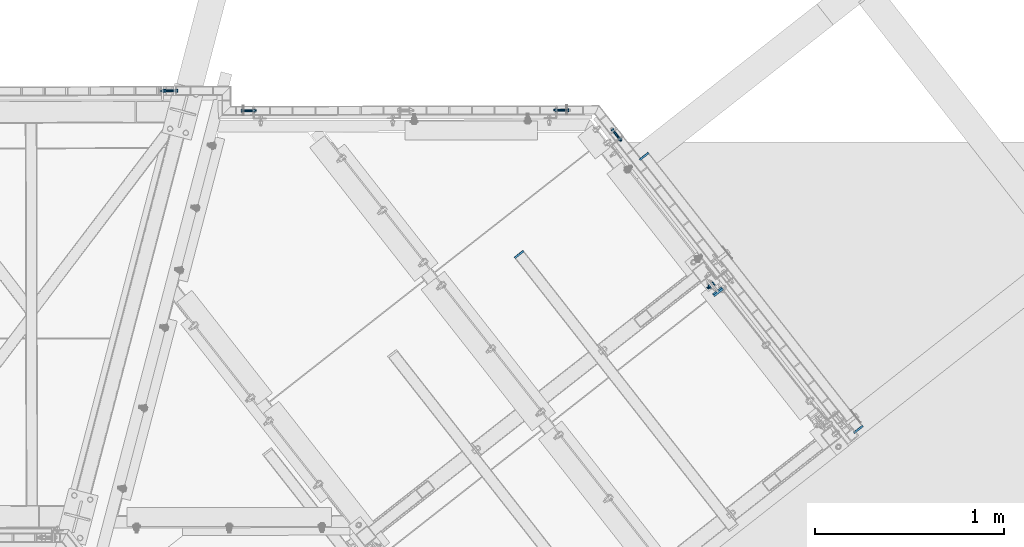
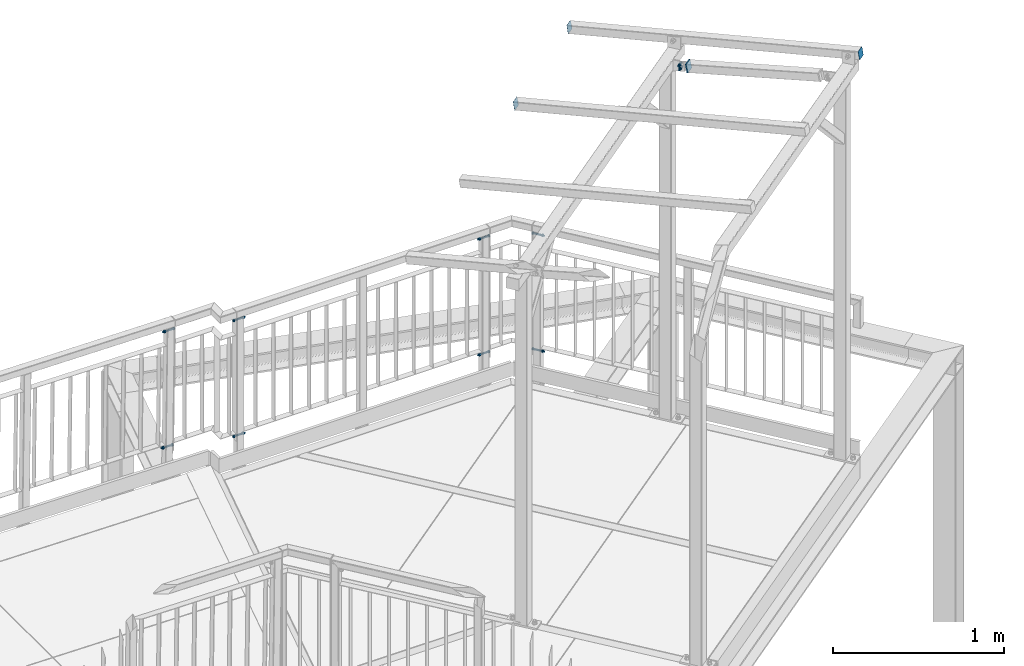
# One storey, part 169 of 169: 9 mechanical fasteners, 4 discrete accessories, 4 elements without a shape of their own.
"""IFC2X3 building model written with IfcOpenShell, lengths in millimetres."""

import ifcopenshell
import ifcopenshell.guid

model = None  # the IFC model being written
_history = None  # IfcOwnerHistory: only IFC2X3 demands one
_inside = {}  # id of a spatial element -> (the spatial element, [elements in it])
_under = {}  # id of a project, library or spatial element -> (it, [spatial elements below it])
_declared = {}  # id of a project -> (the project, [libraries it declares])
_typed = {}  # id of a type object -> (the type object, [elements of that type])
_made_of = {}  # id of a material, layer set ... -> (it, [elements and type objects made of it])


def new_model(schema):
    """Start an empty IFC model of exactly this schema.

    Asked for "IFC4X3", IfcOpenShell would pick the latest addendum, in which some entities
    have other attributes; the version numbers below select the first issue.
    IFC2X3 requires an IfcOwnerHistory on every rooted entity: one is made here for all.
    """
    global model, _history
    if schema == "IFC4X3":
        model = ifcopenshell.file(schema_version=(4, 3, 0, 0))
    else:
        model = ifcopenshell.file(schema=schema)
    _inside.clear()
    _under.clear()
    _declared.clear()
    _typed.clear()
    _made_of.clear()
    _history = None
    if model.schema == "IFC2X3":
        org = make("IfcOrganization", Name="unknown")
        user = make(
            "IfcPersonAndOrganization",
            ThePerson=make("IfcPerson", FamilyName="unknown"),
            TheOrganization=org,
        )
        app = make(
            "IfcApplication",
            ApplicationDeveloper=org,
            Version="unknown",
            ApplicationFullName="unknown",
            ApplicationIdentifier="unknown",
        )
        _history = make(
            "IfcOwnerHistory",
            OwningUser=user,
            OwningApplication=app,
            ChangeAction="ADDED",
            CreationDate=0,
        )
    return model


def make(cls, **values):
    """One entity of the class cls with the attributes given. An attribute that is None is left unset."""
    return model.create_entity(
        cls, **{name: value for name, value in values.items() if value is not None}
    )


def rooted(cls, **values):
    """An entity with a GlobalId (a new one), such as an element, a storey or a relation."""
    return make(cls, GlobalId=ifcopenshell.guid.new(), OwnerHistory=_history, **values)


def si_unit(unit_type, name, prefix=None):
    """IfcSIUnit, for example si_unit("LENGTHUNIT", "METRE", prefix="MILLI")."""
    return make("IfcSIUnit", UnitType=unit_type, Prefix=prefix, Name=name)


def assignment(units):
    """IfcUnitAssignment: the units of a project."""
    return None if units is None else make("IfcUnitAssignment", Units=units)


def point(xyz):
    """IfcCartesianPoint."""
    return None if xyz is None else make("IfcCartesianPoint", Coordinates=xyz)


def direction(xyz):
    """IfcDirection."""
    return None if xyz is None else make("IfcDirection", DirectionRatios=xyz)


def frame(location, z_axis=None, x_axis=None):
    """IfcAxis2Placement3D, a coordinate frame: its origin and axes. An axis left out is left unset."""
    return make(
        "IfcAxis2Placement3D",
        Location=point(location),
        Axis=direction(z_axis),
        RefDirection=direction(x_axis),
    )


def frame_2d(location, x_axis=None):
    """IfcAxis2Placement2D, a coordinate frame in the plane: its origin and x axis."""
    return make(
        "IfcAxis2Placement2D", Location=point(location), RefDirection=direction(x_axis)
    )


def origin_with_axes():
    """The frame at (0, 0, 0) with the z axis (0, 0, 1) and the x axis (1, 0, 0) written out."""
    return frame((0.0, 0.0, 0.0), z_axis=(0.0, 0.0, 1.0), x_axis=(1.0, 0.0, 0.0))


def origin_2d_with_axis():
    """The frame at (0, 0) in the plane with the x axis (1, 0) written out."""
    return frame_2d((0.0, 0.0), x_axis=(1.0, 0.0))


def place(relative_to, where):
    """IfcLocalPlacement: puts the frame where relative to a parent placement (None: the world)."""
    return make(
        "IfcLocalPlacement", PlacementRelTo=relative_to, RelativePlacement=where
    )


def context(
    kind, dimensions, precision=None, world=None, true_north=None, identifier=None
):
    """IfcGeometricRepresentationContext, for example the 3D "Model" context."""
    return make(
        "IfcGeometricRepresentationContext",
        ContextIdentifier=identifier,
        ContextType=kind,
        CoordinateSpaceDimension=dimensions,
        Precision=precision,
        WorldCoordinateSystem=world,
        TrueNorth=true_north,
    )


def subcontext(parent, identifier, kind, view, scale=None):
    """IfcGeometricRepresentationSubContext, for example "Body" below "Model"."""
    return make(
        "IfcGeometricRepresentationSubContext",
        ContextIdentifier=identifier,
        ContextType=kind,
        ParentContext=parent,
        TargetScale=scale,
        TargetView=view,
    )


def project(units=None, contexts=None):
    """IfcProject with its units and contexts."""
    return rooted(
        "IfcProject",
        Name="project",
        RepresentationContexts=contexts,
        UnitsInContext=assignment(units),
    )


def spatial(cls, under=None, at=None, **own):
    """A site, building, storey or space (cls), placed at a placement, below another one or the project."""
    s = rooted(cls, ObjectPlacement=at, **own)
    if under is not None:
        _under.setdefault(under.id(), (under, []))[1].append(s)
    return s


def polyline(points):
    """IfcPolyline through the points."""
    return make("IfcPolyline", Points=[point(p) for p in points])


def profile(cls, at=None, kind="AREA", **sizes):
    """A parametric profile (cls). Its sizes go by their IFC names, for example OverallWidth=200.0."""
    return make(cls, ProfileType=kind, Position=at, **sizes)


def circle(**sizes):
    """IfcCircleProfileDef."""
    return profile("IfcCircleProfileDef", **sizes)


def outline(outer, holes=None, kind="AREA"):
    """IfcArbitraryClosedProfileDef: a profile drawn as a closed curve; with holes, ...WithVoids."""
    if holes is None:
        return make("IfcArbitraryClosedProfileDef", ProfileType=kind, OuterCurve=outer)
    return make(
        "IfcArbitraryProfileDefWithVoids",
        ProfileType=kind,
        OuterCurve=outer,
        InnerCurves=holes,
    )


def extrude(swept, where, along, depth):
    """IfcExtrudedAreaSolid: the profile swept, set in the frame where, extruded along a direction by depth."""
    return make(
        "IfcExtrudedAreaSolid",
        SweptArea=swept,
        Position=where,
        ExtrudedDirection=direction(along),
        Depth=depth,
    )


def shape(context_of_items, identifier, shape_type, items):
    """IfcShapeRepresentation: the items that make up one representation, for example the "Body"."""
    return make(
        "IfcShapeRepresentation",
        ContextOfItems=context_of_items,
        RepresentationIdentifier=identifier,
        RepresentationType=shape_type,
        Items=items,
    )


def source(mapping_origin, context_of_items, identifier, shape_type, items):
    """IfcRepresentationMap: a shape defined once, which mapped items show again and again."""
    return make(
        "IfcRepresentationMap",
        MappingOrigin=mapping_origin,
        MappedRepresentation=shape(context_of_items, identifier, shape_type, items),
    )


def transform(
    local_origin,
    x_axis=None,
    y_axis=None,
    z_axis=None,
    scale=None,
    scale2=None,
    scale3=None,
    uniform=True,
):
    """IfcCartesianTransformationOperator3D, or its non-uniform kind. x_axis, y_axis, z_axis: its Axis1, 2, 3."""
    if uniform:
        return make(
            "IfcCartesianTransformationOperator3D",
            Axis1=direction(x_axis),
            Axis2=direction(y_axis),
            LocalOrigin=point(local_origin),
            Scale=scale,
            Axis3=direction(z_axis),
        )
    return make(
        "IfcCartesianTransformationOperator3DnonUniform",
        Axis1=direction(x_axis),
        Axis2=direction(y_axis),
        LocalOrigin=point(local_origin),
        Scale=scale,
        Axis3=direction(z_axis),
        Scale2=scale2,
        Scale3=scale3,
    )


def mapped(mapping_source, mapping_target):
    """IfcMappedItem: shows the shape of a source again, moved by a transform."""
    return make(
        "IfcMappedItem", MappingSource=mapping_source, MappingTarget=mapping_target
    )


def material(Name=None, Category=None):
    """IfcMaterial."""
    return make("IfcMaterial", Name=Name, Category=Category)


def made_of(thing, what):
    """Note that an element or type object is made of a material, layer set ...; save() writes the relation."""
    if what is not None:
        _made_of.setdefault(what.id(), (what, []))[1].append(thing)
    return thing


def type_object(cls, material=None, **own):
    """A type object (cls), such as IfcWallType, which elements share."""
    return made_of(rooted(cls, **own), material)


def element(
    cls,
    number,
    at=None,
    inside=None,
    cuts=None,
    type_object=None,
    material=None,
    context=None,
    identifier="Body",
    shape_type=None,
    held_by="IfcProductDefinitionShape",
    body=None,
    shapes=None,
    **own,
):
    """One element of the class cls, such as IfcWall. Its Tag is "e" and its number.

    at: its placement. inside: the storey or other place that contains it. cuts: it is an
    opening in that element (IfcRelVoidsElement). A single representation is given by context,
    identifier, shape_type and body (its items); several are given by shapes. held_by: the class
    of the entity that holds the representations. save() writes the other relations.
    """
    e = rooted(cls, Tag="e%d" % number, ObjectPlacement=at, **own)
    if body is not None:
        shapes = [shape(context, identifier, shape_type, body)]
    if shapes is not None:
        e.Representation = make(held_by, Representations=shapes)
    if inside is not None:
        _inside.setdefault(inside.id(), (inside, []))[1].append(e)
    if cuts is not None:
        rooted(
            "IfcRelVoidsElement", RelatingBuildingElement=cuts, RelatedOpeningElement=e
        )
    if type_object is not None:
        _typed.setdefault(type_object.id(), (type_object, []))[1].append(e)
    return made_of(e, material)


def aggregate(whole, parts):
    """IfcRelAggregates: a whole, such as a stair, and the parts it consists of."""
    return rooted("IfcRelAggregates", RelatingObject=whole, RelatedObjects=parts)


def save(model, path):
    """Write the relations noted so far, then the file.

    IfcRelAggregates (storeys below a building ...), IfcRelContainedInSpatialStructure (elements
    in a storey), IfcRelDefinesByType, IfcRelAssociatesMaterial and IfcRelDeclares: one each for
    every whole, place, type object, material and project.
    """
    for whole, parts in _under.values():
        aggregate(whole, parts)
    for where, things in _inside.values():
        rooted(
            "IfcRelContainedInSpatialStructure",
            RelatedElements=things,
            RelatingStructure=where,
        )
    for kind, things in _typed.values():
        rooted("IfcRelDefinesByType", RelatedObjects=things, RelatingType=kind)
    for what, things in _made_of.values():
        rooted("IfcRelAssociatesMaterial", RelatedObjects=things, RelatingMaterial=what)
    for by, libraries in _declared.values():
        rooted("IfcRelDeclares", RelatingContext=by, RelatedDefinitions=libraries)
    model.write(path)


model = new_model("IFC2X3")

# Units and contexts
model_context = context("Model", 3, precision=1e-05, world=origin_with_axes())
body_context = subcontext(model_context, "Body", "Model", "MODEL_VIEW")
ifc_project = project(units=[si_unit("LENGTHUNIT", "METRE", prefix="MILLI"), si_unit("AREAUNIT", "SQUARE_METRE"), si_unit("VOLUMEUNIT", "CUBIC_METRE"), si_unit("MASSUNIT", "GRAM", prefix="KILO"), si_unit("TIMEUNIT", "SECOND"), si_unit("PLANEANGLEUNIT", "RADIAN"), si_unit("SOLIDANGLEUNIT", "STERADIAN"), si_unit("THERMODYNAMICTEMPERATUREUNIT", "DEGREE_CELSIUS"), si_unit("LUMINOUSINTENSITYUNIT", "LUMEN")], contexts=[model_context])

# Site, building, storey
site_placement = place(None, origin_with_axes())
site = spatial("IfcSite", under=ifc_project, at=site_placement, Name="Undefined", CompositionType="ELEMENT")
building_placement = place(site_placement, origin_with_axes())
building = spatial("IfcBuilding", under=site, at=building_placement, Name="Undefined", CompositionType="ELEMENT")
storey_placement = place(building_placement, origin_with_axes())
storey = spatial("IfcBuildingStorey", under=building, at=storey_placement, Name="Undefined", CompositionType="ELEMENT", Elevation=0.0)

# Assembly, discrete accessory
assembly_1_placement = place(storey_placement, origin_with_axes())
assembly_1 = element("IfcElementAssembly", 1, at=assembly_1_placement, inside=storey, Name="Steel Assembly", AssemblyPlace="NOTDEFINED", PredefinedType="RIGID_FRAME")
ifc_material_1 = material(Name="STEEL/S235")
discrete_accessory_type_1 = type_object("IfcDiscreteAccessoryType", Name="BLACHA")
discrete_accessory_1_placement = place(assembly_1_placement, frame((21799.9364944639, 1309.71528431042, 16335.246931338), z_axis=(0.607017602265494, -0.773740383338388, 0.181260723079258), x_axis=(0.786773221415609, 0.617242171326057, 0.0)))
discrete_accessory_1 = element("IfcDiscreteAccessory", 2, at=discrete_accessory_1_placement, type_object=discrete_accessory_type_1, material=ifc_material_1, Name="BLACHA", ObjectType="BL8*60", context=body_context, shape_type="SweptSolid", body=[
    extrude(outline(polyline([(-1.63709046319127e-10, 30.0000000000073), (60.0000000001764, 30.0000000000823), (60.0000000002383, -29.9999999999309), (1.63709046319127e-10, -30.0000000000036), (-1.63709046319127e-10, 30.0000000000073)])), frame((1.81942236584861e-12, -3.63797880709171e-12, -4.00000000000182), z_axis=(0.0, 0.0, 1.0), x_axis=(1.0, 0.0, 0.0)), (0.0, 0.0, 1.0), 8.0),
])

assembly_2_placement = place(storey_placement, origin_with_axes())
assembly_2 = element("IfcElementAssembly", 3, at=assembly_2_placement, inside=storey, Name="Steel Assembly", AssemblyPlace="NOTDEFINED", PredefinedType="RIGID_FRAME")
discrete_accessory_2_placement = place(assembly_2_placement, frame((21412.6178133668, 2022.12923452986, 16285.9942798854), z_axis=(0.609591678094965, -0.777021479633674, 0.156957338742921), x_axis=(0.786773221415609, 0.617242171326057, 0.0)))
discrete_accessory_2 = element("IfcDiscreteAccessory", 4, at=discrete_accessory_2_placement, type_object=discrete_accessory_type_1, material=ifc_material_1, Name="BLACHA", ObjectType="BL1*60", context=body_context, shape_type="SweptSolid", body=[
    extrude(outline(polyline([(0.0, 0.0), (60.0000000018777, -8.8220986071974e-11), (59.9999961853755, 60.0000000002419), (5.3567816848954e-11, 59.9999999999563), (0.0, 0.0)])), frame((4.96240207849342e-17, -1.81897552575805e-12, -0.5), z_axis=(0.0, 0.0, 1.0), x_axis=(1.0, 0.0, 0.0)), (0.0, 0.0, 1.0), 1.0),
])

assembly_3_placement = place(storey_placement, origin_with_axes())
assembly_3 = element("IfcElementAssembly", 5, at=assembly_3_placement, inside=storey, Name="Steel Assembly", AssemblyPlace="NOTDEFINED", PredefinedType="RIGID_FRAME")
discrete_accessory_3_placement = place(assembly_3_placement, frame((20751.7283084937, 1503.64581168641, 16285.9941935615), z_axis=(0.609591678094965, -0.777021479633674, 0.156957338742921), x_axis=(0.786773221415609, 0.617242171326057, 0.0)))
discrete_accessory_3 = element("IfcDiscreteAccessory", 6, at=discrete_accessory_3_placement, type_object=discrete_accessory_type_1, material=ifc_material_1, Name="BLACHA", ObjectType="BL1*60", context=body_context, shape_type="SweptSolid", body=[
    extrude(outline(polyline([(0.0, 0.0), (60.0000000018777, -8.8220986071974e-11), (59.9999961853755, 60.0000000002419), (5.3567816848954e-11, 59.9999999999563), (0.0, 0.0)])), frame((4.96240207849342e-17, -1.81897552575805e-12, -0.5), z_axis=(0.0, 0.0, 1.0), x_axis=(1.0, 0.0, 0.0)), (0.0, 0.0, 1.0), 1.0),
])
aggregate(assembly_3, [discrete_accessory_3])

# Discrete accessory
discrete_accessory_4_placement = place(assembly_2_placement, frame((22586.3355536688, 623.246045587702, 16636.8008422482), z_axis=(0.609591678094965, -0.777021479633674, 0.156957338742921), x_axis=(-0.7867732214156, -0.61724217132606, -1.0406294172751e-07)))
discrete_accessory_4 = element("IfcDiscreteAccessory", 7, at=discrete_accessory_4_placement, type_object=discrete_accessory_type_1, material=ifc_material_1, Name="BLACHA", ObjectType="BL1*60", context=body_context, shape_type="SweptSolid", body=[
    extrude(outline(polyline([(0.0, 0.0), (60.0000000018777, -8.8220986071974e-11), (59.9999961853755, 60.0000000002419), (5.3567816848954e-11, 59.9999999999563), (0.0, 0.0)])), frame((4.96240207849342e-17, -1.81897552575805e-12, -0.5), z_axis=(0.0, 0.0, 1.0), x_axis=(1.0, 0.0, 0.0)), (0.0, 0.0, 1.0), 1.0),
])

aggregate(assembly_2, [discrete_accessory_2, discrete_accessory_4])

# Assembly, mechanical fasteners
assembly_4_placement = place(storey_placement, origin_with_axes())
assembly_4 = element("IfcElementAssembly", 8, at=assembly_4_placement, inside=storey, Name="Steel Assembly", AssemblyPlace="NOTDEFINED", PredefinedType="RIGID_FRAME")
ifc_material_2 = material(Name="Undefined")
discrete_accessory_type_2 = type_object("IfcDiscreteAccessoryType", Name="Bolt assembly")
shared_shape_1 = source(origin_with_axes(), body_context, "Body", "SweptSolid", [
    extrude(circle(Radius=6.5, at=origin_2d_with_axis()), frame((0.0, 4.89999999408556, 0.0), z_axis=(0.0, 1.0, 0.0), x_axis=(1.0, 0.0, 0.0)), (0.0, 0.0, 1.0), 50.1),
    extrude(circle(Radius=6.5, at=origin_2d_with_axis()), frame((0.0, 0.100000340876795, 0.0), z_axis=(0.0, 1.0, 0.0), x_axis=(1.0, 0.0, 0.0)), (0.0, 0.0, 1.0), 5.0),
    extrude(outline(polyline([(8.66025403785, 0.0), (4.330127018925, 7.50000000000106), (-4.330127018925, 7.50000000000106), (-8.66025403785, 0.0), (-4.330127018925, -7.50000000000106), (4.330127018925, -7.50000000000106), (8.66025403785, 0.0)])), frame((0.0, -8.39999975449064, 0.0), z_axis=(0.0, 1.0, 0.0), x_axis=(1.0, 0.0, 0.0)), (0.0, 0.0, 1.0), 6.4),
    extrude(circle(Radius=5.0, at=origin_2d_with_axis()), frame((0.0, -1.9999996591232, 0.0), z_axis=(0.0, 1.0, 0.0), x_axis=(1.0, 0.0, 0.0)), (0.0, 0.0, 1.0), 75.0),
    extrude(circle(Radius=10.0, at=origin_2d_with_axis()), frame((0.0, -1.9999996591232, 0.0), z_axis=(0.0, 1.0, 0.0), x_axis=(1.0, 0.0, 0.0)), (0.0, 0.0, 1.0), 2.0),
    extrude(circle(Radius=10.0, at=origin_2d_with_axis()), frame((0.0, 54.9999999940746, 0.0), z_axis=(0.0, 1.0, 0.0), x_axis=(1.0, 0.0, 0.0)), (0.0, 0.0, 1.0), 2.0),
    extrude(outline(polyline([(9.81495457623, 0.0), (4.907477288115, 8.5000000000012), (-4.907477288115, 8.5000000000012), (-9.81495457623, 0.0), (-4.907477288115, -8.5000000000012), (4.907477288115, -8.5000000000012), (9.81495457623, 0.0)])), frame((0.0, 56.999999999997, 0.0), z_axis=(0.0, 1.0, 0.0), x_axis=(1.0, 0.0, 0.0)), (0.0, 0.0, 1.0), 8.0),
])
mechanical_fastener_1_placement = place(assembly_4_placement, frame((19311.7468070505, 2285.53108759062, 14820.0826306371), z_axis=(-2.54700353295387e-10, 0.0, -1.0), x_axis=(-0.00162384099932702, 0.999998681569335, -1.10000109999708e-08)))
mechanical_fastener_1 = element("IfcMechanicalFastener", 9, at=mechanical_fastener_1_placement, type_object=discrete_accessory_type_2, material=ifc_material_2, Name="Bolt assembly", NominalDiameter=10.0, NominalLength=75.0, context=body_context, shape_type="MappedRepresentation", body=[
    mapped(shared_shape_1, transform((0.0, 0.0, 0.0))),
])
mechanical_fastener_2_placement = place(assembly_4_placement, frame((21268.6531593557, 2181.33324727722, 14820.4175226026), z_axis=(-2.54700353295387e-10, 0.0, -1.0), x_axis=(0.786773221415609, 0.617242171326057, 0.0)))
mechanical_fastener_2 = element("IfcMechanicalFastener", 10, at=mechanical_fastener_2_placement, type_object=discrete_accessory_type_2, material=ifc_material_2, Name="Bolt assembly", NominalDiameter=10.0, NominalLength=75.0, context=body_context, shape_type="MappedRepresentation", body=[
    mapped(shared_shape_1, transform((0.0, 0.0, 0.0))),
])
shared_shape_2 = source(origin_with_axes(), body_context, "Body", "SweptSolid", [
    extrude(circle(Radius=6.5, at=origin_2d_with_axis()), frame((0.0, 4.93999548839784, 0.0), z_axis=(0.0, 1.0, 0.0), x_axis=(1.0, 0.0, 0.0)), (0.0, 0.0, 1.0), 50.06),
    extrude(circle(Radius=6.5, at=origin_2d_with_axis()), frame((0.0, 0.139995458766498, 0.0), z_axis=(0.0, 1.0, 0.0), x_axis=(1.0, 0.0, 0.0)), (0.0, 0.0, 1.0), 5.0),
    extrude(outline(polyline([(8.66025403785, 0.0), (4.330127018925, 7.50000000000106), (-4.330127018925, 7.50000000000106), (-8.66025403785, 0.0), (-4.330127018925, -7.50000000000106), (4.330127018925, -7.50000000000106), (8.66025403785, 0.0)])), frame((0.0, -8.36000463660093, 0.0), z_axis=(0.0, 1.0, 0.0), x_axis=(1.0, 0.0, 0.0)), (0.0, 0.0, 1.0), 6.4),
    extrude(circle(Radius=5.0, at=origin_2d_with_axis()), frame((0.0, -1.9600045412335, 0.0), z_axis=(0.0, 1.0, 0.0), x_axis=(1.0, 0.0, 0.0)), (0.0, 0.0, 1.0), 75.0),
    extrude(circle(Radius=10.0, at=origin_2d_with_axis()), frame((0.0, -1.9600045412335, 0.0), z_axis=(0.0, 1.0, 0.0), x_axis=(1.0, 0.0, 0.0)), (0.0, 0.0, 1.0), 2.0),
    extrude(circle(Radius=10.0, at=origin_2d_with_axis()), frame((0.0, 54.9999999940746, 0.0), z_axis=(0.0, 1.0, 0.0), x_axis=(1.0, 0.0, 0.0)), (0.0, 0.0, 1.0), 2.0),
    extrude(outline(polyline([(9.81495457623, 0.0), (4.907477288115, 8.5000000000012), (-4.907477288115, 8.5000000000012), (-9.81495457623, 0.0), (-4.907477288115, -8.5000000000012), (4.907477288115, -8.5000000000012), (9.81495457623, 0.0)])), frame((0.0, 56.999999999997, 0.0), z_axis=(0.0, 1.0, 0.0), x_axis=(1.0, 0.0, 0.0)), (0.0, 0.0, 1.0), 8.0),
])
mechanical_fastener_3_placement = place(assembly_4_placement, frame((18961.2134340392, 2390.3781455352, 14820.0861526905), z_axis=(0.012713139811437, 2.3750999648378e-05, 0.999919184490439), x_axis=(-0.0018648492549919, 0.999998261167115, -4.2996762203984e-08)))
mechanical_fastener_3 = element("IfcMechanicalFastener", 11, at=mechanical_fastener_3_placement, type_object=discrete_accessory_type_2, material=ifc_material_2, Name="Bolt assembly", NominalDiameter=10.0, NominalLength=75.0, context=body_context, shape_type="MappedRepresentation", body=[
    mapped(shared_shape_2, transform((0.0, 0.0, 0.0))),
])
shared_shape_3 = source(origin_with_axes(), body_context, "Body", "SweptSolid", [
    extrude(circle(Radius=6.5, at=origin_2d_with_axis()), frame((0.0, 4.93813823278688, 0.0), z_axis=(0.0, 1.0, 0.0), x_axis=(1.0, 0.0, 0.0)), (0.0, 0.0, 1.0), 50.06),
    extrude(circle(Radius=6.5, at=origin_2d_with_axis()), frame((0.0, 0.138138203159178, 0.0), z_axis=(0.0, 1.0, 0.0), x_axis=(1.0, 0.0, 0.0)), (0.0, 0.0, 1.0), 5.0),
    extrude(outline(polyline([(8.66025403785, 0.0), (4.330127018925, 7.50000000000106), (-4.330127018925, 7.50000000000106), (-8.66025403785, 0.0), (-4.330127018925, -7.50000000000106), (4.330127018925, -7.50000000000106), (8.66025403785, 0.0)])), frame((0.0, -8.36186189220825, 0.0), z_axis=(0.0, 1.0, 0.0), x_axis=(1.0, 0.0, 0.0)), (0.0, 0.0, 1.0), 6.4),
    extrude(circle(Radius=5.0, at=origin_2d_with_axis()), frame((0.0, -1.96186179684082, 0.0), z_axis=(0.0, 1.0, 0.0), x_axis=(1.0, 0.0, 0.0)), (0.0, 0.0, 1.0), 75.0),
    extrude(circle(Radius=10.0, at=origin_2d_with_axis()), frame((0.0, -1.96186179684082, 0.0), z_axis=(0.0, 1.0, 0.0), x_axis=(1.0, 0.0, 0.0)), (0.0, 0.0, 1.0), 2.0),
    extrude(circle(Radius=10.0, at=origin_2d_with_axis()), frame((0.0, 54.9999999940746, 0.0), z_axis=(0.0, 1.0, 0.0), x_axis=(1.0, 0.0, 0.0)), (0.0, 0.0, 1.0), 2.0),
    extrude(outline(polyline([(9.81495457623, 0.0), (4.907477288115, 8.5000000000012), (-4.907477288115, 8.5000000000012), (-9.81495457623, 0.0), (-4.907477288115, -8.5000000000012), (4.907477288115, -8.5000000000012), (9.81495457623, 0.0)])), frame((0.0, 56.999999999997, 0.0), z_axis=(0.0, 1.0, 0.0), x_axis=(1.0, 0.0, 0.0)), (0.0, 0.0, 1.0), 8.0),
])
mechanical_fastener_4_placement = place(assembly_4_placement, frame((18950.7123816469, 2390.35852892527, 13994.2990942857), z_axis=(0.012713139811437, 2.3750999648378e-05, 0.999919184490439), x_axis=(-0.0018648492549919, 0.999998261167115, -4.2996762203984e-08)))
mechanical_fastener_4 = element("IfcMechanicalFastener", 12, at=mechanical_fastener_4_placement, type_object=discrete_accessory_type_2, material=ifc_material_2, Name="Bolt assembly", NominalDiameter=10.0, NominalLength=75.0, context=body_context, shape_type="MappedRepresentation", body=[
    mapped(shared_shape_3, transform((0.0, 0.0, 0.0))),
])
shared_shape_4 = source(origin_with_axes(), body_context, "Body", "SweptSolid", [
    extrude(circle(Radius=6.5, at=origin_2d_with_axis()), frame((0.0, 4.89994591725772, 0.0), z_axis=(0.0, 1.0, 0.0), x_axis=(1.0, 0.0, 0.0)), (0.0, 0.0, 1.0), 50.1),
    extrude(circle(Radius=6.5, at=origin_2d_with_axis()), frame((0.0, 0.100000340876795, 0.0), z_axis=(0.0, 1.0, 0.0), x_axis=(1.0, 0.0, 0.0)), (0.0, 0.0, 1.0), 5.0),
    extrude(outline(polyline([(8.66025403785, 0.0), (4.330127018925, 7.50000000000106), (-4.330127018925, 7.50000000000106), (-8.66025403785, 0.0), (-4.330127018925, -7.50000000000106), (4.330127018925, -7.50000000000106), (8.66025403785, 0.0)])), frame((0.0, -8.39999975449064, 0.0), z_axis=(0.0, 1.0, 0.0), x_axis=(1.0, 0.0, 0.0)), (0.0, 0.0, 1.0), 6.4),
    extrude(circle(Radius=5.0, at=origin_2d_with_axis()), frame((0.0, -1.9999996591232, 0.0), z_axis=(0.0, 1.0, 0.0), x_axis=(1.0, 0.0, 0.0)), (0.0, 0.0, 1.0), 75.0),
    extrude(circle(Radius=10.0, at=origin_2d_with_axis()), frame((0.0, -1.9999996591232, 0.0), z_axis=(0.0, 1.0, 0.0), x_axis=(1.0, 0.0, 0.0)), (0.0, 0.0, 1.0), 2.0),
    extrude(circle(Radius=10.0, at=origin_2d_with_axis()), frame((0.0, 54.9999999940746, 0.0), z_axis=(0.0, 1.0, 0.0), x_axis=(1.0, 0.0, 0.0)), (0.0, 0.0, 1.0), 2.0),
    extrude(outline(polyline([(9.81495457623, 0.0), (4.907477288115, 8.5000000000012), (-4.907477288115, 8.5000000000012), (-9.81495457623, 0.0), (-4.907477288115, -8.5000000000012), (4.907477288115, -8.5000000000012), (9.81495457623, 0.0)])), frame((0.0, 56.999999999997, 0.0), z_axis=(0.0, 1.0, 0.0), x_axis=(1.0, 0.0, 0.0)), (0.0, 0.0, 1.0), 8.0),
])
mechanical_fastener_5_placement = place(assembly_4_placement, frame((19311.7469873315, 2285.53108060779, 13994.0826305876), z_axis=(-2.54700353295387e-10, 0.0, -1.0), x_axis=(-0.00162384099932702, 0.999998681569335, -1.10000109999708e-08)))
mechanical_fastener_5 = element("IfcMechanicalFastener", 13, at=mechanical_fastener_5_placement, type_object=discrete_accessory_type_2, material=ifc_material_2, Name="Bolt assembly", NominalDiameter=10.0, NominalLength=75.0, context=body_context, shape_type="MappedRepresentation", body=[
    mapped(shared_shape_4, transform((0.0, 0.0, 0.0))),
])
mechanical_fastener_6_placement = place(assembly_4_placement, frame((21268.6533218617, 2181.33319962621, 13994.4175225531), z_axis=(-2.54700353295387e-10, 0.0, -1.0), x_axis=(0.786773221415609, 0.617242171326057, 0.0)))
mechanical_fastener_6 = element("IfcMechanicalFastener", 14, at=mechanical_fastener_6_placement, type_object=discrete_accessory_type_2, material=ifc_material_2, Name="Bolt assembly", NominalDiameter=10.0, NominalLength=75.0, context=body_context, shape_type="MappedRepresentation", body=[
    mapped(shared_shape_4, transform((0.0, 0.0, 0.0))),
])
shared_shape_5 = source(origin_with_axes(), body_context, "Body", "SweptSolid", [
    extrude(circle(Radius=6.5, at=origin_2d_with_axis()), frame((0.0, 4.89744204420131, 0.0), z_axis=(0.0, 1.0, 0.0), x_axis=(1.0, 0.0, 0.0)), (0.0, 0.0, 1.0), 50.1),
    extrude(circle(Radius=6.5, at=origin_2d_with_axis()), frame((0.0, 0.100000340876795, 0.0), z_axis=(0.0, 1.0, 0.0), x_axis=(1.0, 0.0, 0.0)), (0.0, 0.0, 1.0), 5.0),
    extrude(outline(polyline([(8.66025403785, 0.0), (4.330127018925, 7.50000000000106), (-4.330127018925, 7.50000000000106), (-8.66025403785, 0.0), (-4.330127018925, -7.50000000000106), (4.330127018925, -7.50000000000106), (8.66025403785, 0.0)])), frame((0.0, -8.39999975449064, 0.0), z_axis=(0.0, 1.0, 0.0), x_axis=(1.0, 0.0, 0.0)), (0.0, 0.0, 1.0), 6.4),
    extrude(circle(Radius=5.0, at=origin_2d_with_axis()), frame((0.0, -1.9999996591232, 0.0), z_axis=(0.0, 1.0, 0.0), x_axis=(1.0, 0.0, 0.0)), (0.0, 0.0, 1.0), 75.0),
    extrude(circle(Radius=10.0, at=origin_2d_with_axis()), frame((0.0, -1.9999996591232, 0.0), z_axis=(0.0, 1.0, 0.0), x_axis=(1.0, 0.0, 0.0)), (0.0, 0.0, 1.0), 2.0),
    extrude(circle(Radius=10.0, at=origin_2d_with_axis()), frame((0.0, 54.9999999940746, 0.0), z_axis=(0.0, 1.0, 0.0), x_axis=(1.0, 0.0, 0.0)), (0.0, 0.0, 1.0), 2.0),
    extrude(outline(polyline([(9.81495457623, 0.0), (4.907477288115, 8.5000000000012), (-4.907477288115, 8.5000000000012), (-9.81495457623, 0.0), (-4.907477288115, -8.5000000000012), (4.907477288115, -8.5000000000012), (9.81495457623, 0.0)])), frame((0.0, 56.999999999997, 0.0), z_axis=(0.0, 1.0, 0.0), x_axis=(1.0, 0.0, 0.0)), (0.0, 0.0, 1.0), 8.0),
])
mechanical_fastener_7_placement = place(assembly_4_placement, frame((21027.45058802, 2288.31742944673, 14820.0829167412), z_axis=(0.0, 0.0, 1.0), x_axis=(-0.00162384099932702, 0.999998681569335, -1.10000109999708e-08)))
mechanical_fastener_7 = element("IfcMechanicalFastener", 15, at=mechanical_fastener_7_placement, type_object=discrete_accessory_type_2, material=ifc_material_2, Name="Bolt assembly", NominalDiameter=10.0, NominalLength=75.0, context=body_context, shape_type="MappedRepresentation", body=[
    mapped(shared_shape_5, transform((0.0, 0.0, 0.0))),
])
mechanical_fastener_8_placement = place(assembly_4_placement, frame((21027.4507189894, 2288.31742207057, 13994.0829159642), z_axis=(0.0, 0.0, 1.0), x_axis=(-0.00162384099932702, 0.999998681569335, -1.10000109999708e-08)))
mechanical_fastener_8 = element("IfcMechanicalFastener", 16, at=mechanical_fastener_8_placement, type_object=discrete_accessory_type_2, material=ifc_material_2, Name="Bolt assembly", NominalDiameter=10.0, NominalLength=75.0, context=body_context, shape_type="MappedRepresentation", body=[
    mapped(shared_shape_5, transform((0.0, 0.0, 0.0))),
])
aggregate(assembly_4, [mechanical_fastener_3, mechanical_fastener_4, mechanical_fastener_5, mechanical_fastener_1, mechanical_fastener_2, mechanical_fastener_6, mechanical_fastener_7, mechanical_fastener_8])

# Mechanical fastener
shared_shape_6 = source(origin_with_axes(), body_context, "Body", "SweptSolid", [
    extrude(circle(Radius=6.5, at=origin_2d_with_axis()), frame((0.0, -4.10000000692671, 0.0), z_axis=(0.0, 1.0, 0.0), x_axis=(1.0, 0.0, 0.0)), (0.0, 0.0, 1.0), 8.1),
    extrude(circle(Radius=6.5, at=origin_2d_with_axis()), frame((0.0, -11.9000000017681, 0.0), z_axis=(0.0, 1.0, 0.0), x_axis=(1.0, 0.0, 0.0)), (0.0, 0.0, 1.0), 8.0),
    extrude(outline(polyline([(8.66025403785, 0.0), (4.330127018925, 7.50000000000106), (-4.330127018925, 7.50000000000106), (-8.66025403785, 0.0), (-4.330127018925, -7.50000000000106), (4.330127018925, -7.50000000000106), (8.66025403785, 0.0)])), frame((0.0, -20.4000000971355, 0.0), z_axis=(0.0, 1.0, 0.0), x_axis=(1.0, 0.0, 0.0)), (0.0, 0.0, 1.0), 6.4),
    extrude(circle(Radius=5.0, at=origin_2d_with_axis()), frame((0.0, -14.0000001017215, 0.0), z_axis=(0.0, 1.0, 0.0), x_axis=(1.0, 0.0, 0.0)), (0.0, 0.0, 1.0), 40.0),
    extrude(circle(Radius=10.0, at=origin_2d_with_axis()), frame((0.0, -14.0000001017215, 0.0), z_axis=(0.0, 1.0, 0.0), x_axis=(1.0, 0.0, 0.0)), (0.0, 0.0, 1.0), 2.0),
    extrude(circle(Radius=10.0, at=origin_2d_with_axis()), frame((0.0, 3.99999999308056, 0.0), z_axis=(0.0, 1.0, 0.0), x_axis=(1.0, 0.0, 0.0)), (0.0, 0.0, 1.0), 2.0),
    extrude(outline(polyline([(9.81495457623, 0.0), (4.907477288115, 8.5000000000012), (-4.907477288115, 8.5000000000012), (-9.81495457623, 0.0), (-4.907477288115, -8.5000000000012), (4.907477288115, -8.5000000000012), (9.81495457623, 0.0)])), frame((0.0, 5.99999999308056, 0.0), z_axis=(0.0, 1.0, 0.0), x_axis=(1.0, 0.0, 0.0)), (0.0, 0.0, 1.0), 8.0),
])
mechanical_fastener_9_placement = place(assembly_1_placement, frame((21787.5016428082, 1361.20789088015, 16326.365156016), z_axis=(0.111881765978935, -0.142611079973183, -0.983435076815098), x_axis=(0.607017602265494, -0.773740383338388, 0.181260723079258)))
mechanical_fastener_9 = element("IfcMechanicalFastener", 17, at=mechanical_fastener_9_placement, type_object=discrete_accessory_type_2, material=ifc_material_2, Name="Bolt assembly", NominalDiameter=10.0, NominalLength=40.0, context=body_context, shape_type="MappedRepresentation", body=[
    mapped(shared_shape_6, transform((-2.16840434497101e-17, 4.54747358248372e-13, -12.4999999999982))),
    mapped(shared_shape_6, transform((-7.27595761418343e-12, -2.5465851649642e-11, 12.5000000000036))),
])

aggregate(assembly_1, [mechanical_fastener_9, discrete_accessory_1])

save(model, "model.ifc")
